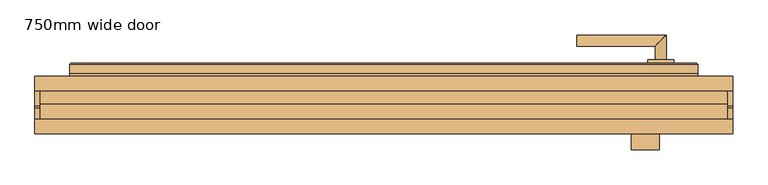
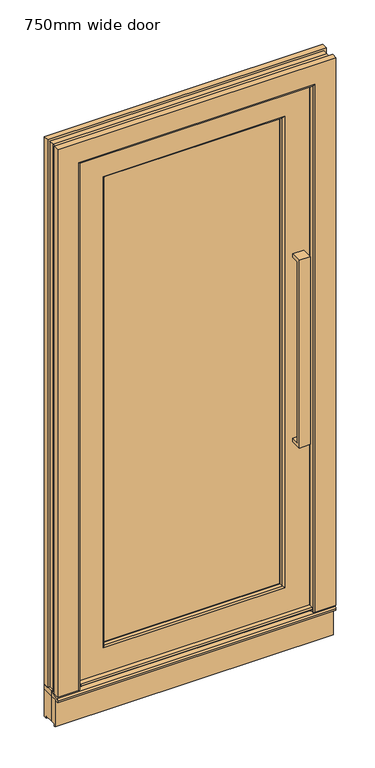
"""IFC4 building model written with IfcOpenShell, lengths in millimetres: door geometry, Doors_GEALAN_S9000_Front-Door : 750mm wide door."""

from ifc_helpers import new_model, si_unit, point, frame, frame_2d, origin, origin_with_axes, place, context, project, spatial, polyline, circle_curve, ellipse_curve, trimmed, segment, composite_curve, outline, extrude, faceted_brep, source, transform, mapped, element, save
from ifc_brep_helpers import plane_surface, cylinder_surface, revolved_surface, advanced_brep


def door_750mm_wide_door_e2ca8ed5(model_context):
    return source(origin(), model_context, "Body", "SolidModel", [
        extrude(outline(polyline([(-31.5, 680.9999998), (-72.9888979, 680.9999998), (-72.9888979, 1393.9777955), (-31.5, 1393.9777955), (-31.5, 1380.9999998), (-60.0111021, 1380.9999998), (-60.0111021, 693.9777955), (-31.5, 693.9777955), (-31.5, 680.9999998)])), frame((355.0988556, 0.0, 0.0), z_axis=(1.0, 0.0, 0.0), x_axis=(0.0, 1.0, 0.0)), (0.0, 0.0, 1.0), 39.8022889),
        advanced_brep(
        [(388.9719061, 56.0, 1030.9999998), (405.0280939, 56.0, 1030.9999998), (405.0280939, 91.5280939, 1030.9999998), (388.9719061, 75.4719061, 1030.9999998), (277.0, 75.4719061, 1030.9999998), (277.0, 91.5280939, 1030.9999998)],
        [
            (0, 1, circle_curve(frame((397.0, 56.0, 1030.9999998), z_axis=(0.0, -1.0, 0.0), x_axis=(1.0, 0.0, 0.0)), 8.0280939)),
            (1, 0, circle_curve(frame((397.0, 56.0, 1030.9999998), z_axis=(0.0, -1.0, 0.0), x_axis=(1.0, 0.0, 0.0)), 8.0280939)),
            (1, 2),
            (2, 3, ellipse_curve(frame((397.0, 83.5, 1030.9999998), z_axis=(0.7071067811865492, -0.7071067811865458, 0.0), x_axis=(-0.7071067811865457, -0.7071067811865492, 0.0)), 11.3534392, 8.0280939)),
            (3, 0),
            (3, 2, ellipse_curve(frame((397.0, 83.5, 1030.9999998), z_axis=(0.7071067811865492, -0.7071067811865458, 0.0), x_axis=(-0.7071067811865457, -0.7071067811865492, 0.0)), 11.3534392, 8.0280939)),
            (4, 5, circle_curve(frame((277.0, 83.5, 1030.9999998), z_axis=(-1.0, 0.0, 0.0), x_axis=(0.0, 1.0, 0.0)), 8.0280939)),
            (5, 4, circle_curve(frame((277.0, 83.5, 1030.9999998), z_axis=(-1.0, 0.0, 0.0), x_axis=(0.0, 1.0, 0.0)), 8.0280939)),
            (2, 5),
            (4, 3),
        ],
        [
            plane_surface(frame((397.0, 56.0, 1030.9999998), z_axis=(0.0, -1.0, 0.0), x_axis=(0.0, 0.0, 1.0))),
            cylinder_surface(frame((397.0, 56.0, 1030.9999998), z_axis=(0.0, -1.0, 0.0), x_axis=(1.0, 0.0, 0.0)), 8.0280939),
            plane_surface(frame((277.0, 83.5, 1030.9999998), z_axis=(-1.0, 0.0, 0.0), x_axis=(0.0, 0.0, 1.0))),
            cylinder_surface(frame((397.0, 83.5, 1030.9999998), z_axis=(1.0, 0.0, 0.0), x_axis=(0.0, 1.0, 0.0)), 8.0280939),
        ],
        [
            (0, [[1, 2]]),
            (1, [[3, 4, 5, -2]]),
            (1, [[-5, 6, -3, -1]]),
            (2, [[7, 8]]),
            (3, [[9, -7, 10, -4]]),
            (3, [[-10, -8, -9, -6]]),
        ],
    ),
        advanced_brep(
        [(397.0, 51.0, 1060.4999998), (378.5, 51.0, 1055.4999998), (378.5, 51.0, 947.4999998), (397.0, 51.0, 942.4999998), (415.5, 51.0, 947.4999998), (415.5, 51.0, 1055.4999998), (398.9792033, 51.0, 972.009504), (398.9792033, 51.0, 965.740473), (395.0207967, 51.0, 965.740473), (395.0207967, 51.0, 972.009504), (378.5, 56.0, 1055.4999998), (378.5, 56.0, 947.4999998), (397.0, 56.0, 1060.4999998), (415.5, 56.0, 1055.4999998), (415.5, 56.0, 947.4999998), (397.0, 56.0, 942.4999998), (395.0207967, 56.0, 972.009504), (395.0207967, 56.0, 965.740473), (398.9792033, 56.0, 965.740473), (398.9792033, 56.0, 972.009504)],
        [
            (0, 1, circle_curve(frame((397.0, 51.0, 1023.7749998), z_axis=(0.0, -1.0, 0.0), x_axis=(1.0, 0.0, 0.0)), 36.725)),
            (1, 2),
            (2, 3, circle_curve(frame((397.0, 51.0, 979.2249998), z_axis=(0.0, -1.0, 0.0), x_axis=(1.0, 0.0, 0.0)), 36.725)),
            (3, 4, circle_curve(frame((397.0, 51.0, 979.2249998), z_axis=(0.0, -1.0, 0.0), x_axis=(1.0, 0.0, 0.0)), 36.725)),
            (4, 5),
            (5, 0, circle_curve(frame((397.0, 51.0, 1023.7749998), z_axis=(0.0, -1.0, 0.0), x_axis=(1.0, 0.0, 0.0)), 36.725)),
            (6, 7),
            (7, 8, circle_curve(frame((397.0, 51.0, 965.740473), z_axis=(0.0, 1.0, 0.0), x_axis=(1.0, 0.0, 0.0)), 1.9792033)),
            (8, 9),
            (9, 6, circle_curve(frame((397.0, 51.0, 975.5006417), z_axis=(0.0, 1.0, 0.0), x_axis=(1.0, 0.0, 0.0)), 4.0131394)),
            (10, 11),
            (11, 2),
            (1, 10),
            (12, 13, circle_curve(frame((397.0, 56.0, 1023.7749998), z_axis=(0.0, 1.0, 0.0), x_axis=(1.0, 0.0, 0.0)), 36.725)),
            (13, 14),
            (14, 15, circle_curve(frame((397.0, 56.0, 979.2249998), z_axis=(0.0, 1.0, 0.0), x_axis=(1.0, 0.0, 0.0)), 36.725)),
            (15, 11, circle_curve(frame((397.0, 56.0, 979.2249998), z_axis=(0.0, 1.0, 0.0), x_axis=(1.0, 0.0, 0.0)), 36.725)),
            (10, 12, circle_curve(frame((397.0, 56.0, 1023.7749998), z_axis=(0.0, 1.0, 0.0), x_axis=(1.0, 0.0, 0.0)), 36.725)),
            (16, 17),
            (17, 18, circle_curve(frame((397.0, 56.0, 965.740473), z_axis=(0.0, -1.0, 0.0), x_axis=(1.0, 0.0, 0.0)), 1.9792033)),
            (18, 19),
            (19, 16, circle_curve(frame((397.0, 56.0, 975.5006417), z_axis=(0.0, -1.0, 0.0), x_axis=(1.0, 0.0, 0.0)), 4.0131394)),
            (4, 14),
            (13, 5),
            (9, 16),
            (19, 6),
            (8, 17),
            (7, 18),
        ],
        [
            plane_surface(frame((415.5, 51.0, 1060.4999998), z_axis=(0.0, -1.0, 0.0), x_axis=(0.0, 0.0, -1.0))),
            plane_surface(frame((378.5, 51.0, 1060.4999998), z_axis=(-1.0, 0.0, 0.0), x_axis=(0.0, 0.0, -1.0))),
            plane_surface(frame((378.5, 56.0, 1060.4999998), z_axis=(0.0, 1.0, 0.0), x_axis=(0.0, 0.0, -1.0))),
            plane_surface(frame((415.5, 56.0, 1060.4999998), z_axis=(1.0, 0.0, 0.0), x_axis=(0.0, 0.0, -1.0))),
            revolved_surface(polyline([(401.0131394, 56.0, 975.5006417), (401.0131394, 51.0, 975.5006417)]), (397.0, 46.0, 975.5006417), (0.0, 1.0, 0.0)),
            plane_surface(frame((395.0207967, 296.0, 972.009504), z_axis=(1.0, 0.0, 0.0), x_axis=(0.0, -1.0, 0.0))),
            revolved_surface(polyline([(398.9792033, 56.0, 965.740473), (398.9792033, 51.0, 965.740473)]), (397.0, 46.0, 965.740473), (0.0, 1.0, 0.0)),
            plane_surface(frame((398.9792033, 296.0, 965.740473), z_axis=(-1.0, 0.0, 0.0), x_axis=(0.0, -1.0, 0.0))),
            cylinder_surface(frame((397.0, 46.0, 1023.7749998), z_axis=(0.0, -1.0, 0.0), x_axis=(1.0, 0.0, 0.0)), 36.725),
            cylinder_surface(frame((397.0, 46.0, 979.2249998), z_axis=(0.0, -1.0, 0.0), x_axis=(1.0, 0.0, 0.0)), 36.725),
        ],
        [
            (0, [[1, 2, 3, 4, 5, 6], [7, 8, 9, 10]]),
            (1, [[11, 12, -2, 13]]),
            (2, [[14, 15, 16, 17, -11, 18], [19, 20, 21, 22]]),
            (3, [[-5, 23, -15, 24]]),
            (4, [[-10, 25, -22, 26]]),
            (5, [[-9, 27, -19, -25]]),
            (6, [[-8, 28, -20, -27]]),
            (7, [[-21, -28, -7, -26]]),
            (8, [[-24, -14, -18, -13, -1, -6]]),
            (9, [[-12, -17, -16, -23, -4, -3]]),
        ],
    ),
        extrude(outline(polyline([(-339.0, -13.5), (-339.0, 26.5), (339.0, 26.5), (339.0, -13.5), (-339.0, -13.5)])), frame((0.0, 0.0, 122.9999998), z_axis=(0.0, 0.0, 1.0), x_axis=(1.0, 0.0, 0.0)), (0.0, 0.0, 1.0), 1816.0),
        extrude(outline(polyline([(1932.7123033, -332.7123035), (129.2876963, -332.7123035), (129.2876963, 332.7123035), (1932.7123033, 332.7123035), (1932.7123033, -332.7123035)]), holes=[polyline([(144.2876963, -317.7123035), (1917.7123033, -317.7123035), (1917.7123033, 317.7123035), (144.2876963, 317.7123035), (144.2876963, -317.7123035)])]), frame((0.0, -16.5, 0.0), z_axis=(0.0, 1.0, 0.0), x_axis=(0.0, 0.0, 1.0)), (0.0, 0.0, 1.0), 3.0),
        extrude(outline(polyline([(1929.501217, -329.5012172), (132.4987826, -329.5012172), (132.4987826, 329.5012172), (1929.501217, 329.5012172), (1929.501217, -329.5012172)]), holes=[polyline([(143.9987826, -318.0012172), (1918.001217, -318.0012172), (1918.001217, 318.0012172), (143.9987826, 318.0012172), (143.9987826, -318.0012172)])]), frame((0.0, 26.5, 0.0), z_axis=(0.0, 1.0, 0.0), x_axis=(0.0, 0.0, 1.0)), (0.0, 0.0, 1.0), 2.5),
        extrude(outline(polyline([(2049.9999998, -450.0), (11.9999998, -450.0), (11.9999998, 450.0), (2049.9999998, 450.0), (2049.9999998, -450.0)]), holes=[polyline([(20.7999998, -441.2), (2041.1999998, -441.2), (2041.1999998, 441.2), (20.7999998, 441.2), (20.7999998, -441.2)])]), frame((0.0, 32.5, 0.0), z_axis=(0.0, 1.0, 0.0), x_axis=(0.0, 0.0, 1.0)), (0.0, 0.0, 1.0), 3.5),
        advanced_brep(
        [(-325.9578203, -31.4881012, 1925.95782), (-325.9578203, -31.4881012, 136.0421795), (-320.5399484, -27.0529143, 141.4600514), (-320.5399484, -27.0529143, 1920.5399482), (-421.9644818, -10.0317805, 2021.9644816), (-421.9644818, -10.0317805, 40.0355179), (-421.9644818, -31.4881012, 40.0355179), (-421.9644818, -31.4881012, 2021.9644816), (-430.0, 10.0, 2029.9999998), (-430.0, 10.0, 31.9999998), (-430.0, -10.0317805, 31.9999998), (-430.0, -10.0317805, 2029.9999998), (-348.1, -16.5, 1948.0999998), (-348.1, -16.5, 113.8999998), (-348.1, 10.0, 113.8999998), (-348.1, 10.0, 1948.0999998), (-317.7123035, -16.5, 144.2876963), (-317.7123035, -16.5, 1917.7123033), (325.9578203, -31.4881012, 136.0421795), (320.5399484, -27.0529143, 141.4600514), (421.9644818, -10.0317805, 40.0355179), (421.9644818, -31.4881012, 40.0355179), (430.0, 10.0, 31.9999998), (430.0, -10.0317805, 31.9999998), (348.1, -16.5, 113.8999998), (348.1, 10.0, 113.8999998), (317.7123035, -16.5, 144.2876963), (325.9578203, -31.4881012, 1925.95782), (320.5399484, -27.0529143, 1920.5399482), (421.9644818, -10.0317805, 2021.9644816), (421.9644818, -31.4881012, 2021.9644816), (430.0, 10.0, 2029.9999998), (430.0, -10.0317805, 2029.9999998), (348.1, -16.5, 1948.0999998), (348.1, 10.0, 1948.0999998), (317.7123035, -16.5, 1917.7123033)],
        [
            (0, 1),
            (1, 2, ellipse_curve(frame((-326.3355033, -25.5, 135.6644965), z_axis=(-0.7071067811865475, 0.0, 0.7071067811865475), x_axis=(0.7071067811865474, 0.0, 0.7071067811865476)), 8.4852814, 6.0)),
            (2, 3),
            (3, 0, ellipse_curve(frame((-326.3355033, -25.5, 1926.3355031), z_axis=(-0.7071067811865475, 0.0, -0.7071067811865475), x_axis=(-0.7071067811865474, 0.0, 0.7071067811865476)), 8.4852814, 6.0)),
            (4, 5),
            (5, 6),
            (6, 7),
            (7, 4),
            (8, 9),
            (9, 10),
            (10, 11),
            (11, 8),
            (12, 13),
            (13, 14),
            (14, 15),
            (15, 12),
            (2, 16),
            (16, 17),
            (17, 3),
            (1, 18),
            (18, 19, ellipse_curve(frame((326.3355033, -25.5, 135.6644965), z_axis=(-0.7071067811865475, 0.0, -0.7071067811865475), x_axis=(-0.7071067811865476, 0.0, 0.7071067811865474)), 8.4852814, 6.0)),
            (19, 2),
            (5, 20),
            (20, 21),
            (21, 6),
            (9, 22),
            (22, 23),
            (23, 10),
            (13, 24),
            (24, 25),
            (25, 14),
            (19, 26),
            (26, 16),
            (18, 27),
            (27, 28, ellipse_curve(frame((326.3355033, -25.5, 1926.3355031), z_axis=(0.7071067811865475, 0.0, -0.7071067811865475), x_axis=(-0.7071067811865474, 0.0, -0.7071067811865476)), 8.4852814, 6.0)),
            (28, 19),
            (20, 29),
            (29, 30),
            (30, 21),
            (22, 31),
            (31, 32),
            (32, 23),
            (24, 33),
            (33, 34),
            (34, 25),
            (28, 35),
            (35, 26),
            (27, 0),
            (3, 28),
            (30, 7),
            (29, 4),
            (32, 11),
            (31, 8),
            (34, 15),
            (33, 12),
            (35, 17),
        ],
        [
            cylinder_surface(frame((-326.3355033, -25.5, 2049.9999998), z_axis=(0.0, 0.0, 1.0), x_axis=(0.0, 1.0, 0.0)), 6.0),
            plane_surface(frame((-421.9644818, -31.4881012, 2021.9644816), z_axis=(-1.0, 0.0, 0.0), x_axis=(0.0, 0.0, -1.0))),
            plane_surface(frame((-430.0, -10.0317805, 2029.9999998), z_axis=(-1.0, 0.0, 0.0), x_axis=(0.0, 0.0, -1.0))),
            plane_surface(frame((-348.1, 10.0, 1948.0999998), z_axis=(1.0, 0.0, 0.0), x_axis=(0.0, 0.0, -1.0))),
            plane_surface(frame((-317.7123035, -16.5, 1917.7123033), z_axis=(0.9659258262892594, -0.25881904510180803, 0.0), x_axis=(0.0, 0.0, -1.0))),
            cylinder_surface(frame((-450.0, -25.5, 135.6644965), z_axis=(-1.0, 0.0, 0.0), x_axis=(0.0, 1.0, 0.0)), 6.0),
            plane_surface(frame((-421.9644818, -31.4881012, 40.0355179), z_axis=(0.0, 0.0, -1.0), x_axis=(1.0, 0.0, 0.0))),
            plane_surface(frame((-430.0, -10.0317805, 31.9999998), z_axis=(0.0, 0.0, -1.0), x_axis=(1.0, 0.0, 0.0))),
            plane_surface(frame((-348.1, 10.0, 113.8999998), z_axis=(0.0, 0.0, 1.0), x_axis=(1.0, 0.0, 0.0))),
            plane_surface(frame((-317.7123035, -16.5, 144.2876963), z_axis=(0.0, -0.25881904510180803, 0.9659258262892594), x_axis=(1.0, 0.0, 0.0))),
            cylinder_surface(frame((326.3355033, -25.5, 11.9999998), z_axis=(0.0, 0.0, -1.0), x_axis=(0.0, 1.0, 0.0)), 6.0),
            plane_surface(frame((421.9644818, -31.4881012, 40.0355179), z_axis=(1.0, 0.0, 0.0), x_axis=(0.0, 0.0, 1.0))),
            plane_surface(frame((430.0, -10.0317805, 31.9999998), z_axis=(1.0, 0.0, 0.0), x_axis=(0.0, 0.0, 1.0))),
            plane_surface(frame((348.1, 10.0, 113.8999998), z_axis=(-1.0, 0.0, 0.0), x_axis=(0.0, 0.0, 1.0))),
            plane_surface(frame((317.7123035, -16.5, 144.2876963), z_axis=(-0.9659258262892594, -0.25881904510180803, 0.0), x_axis=(0.0, 0.0, 1.0))),
            cylinder_surface(frame((450.0, -25.5, 1926.3355031), z_axis=(1.0, 0.0, 0.0), x_axis=(0.0, 1.0, 0.0)), 6.0),
            plane_surface(frame((325.9578203, -31.4881012, 1925.95782), z_axis=(0.0, -1.0, 0.0), x_axis=(-1.0, 0.0, 0.0))),
            plane_surface(frame((421.9644818, -31.4881012, 2021.9644816), z_axis=(0.0, 0.0, 1.0), x_axis=(-1.0, 0.0, 0.0))),
            plane_surface(frame((421.9644818, -10.0317805, 2021.9644816), z_axis=(0.0, -1.0, 0.0), x_axis=(-1.0, 0.0, 0.0))),
            plane_surface(frame((430.0, -10.0317805, 2029.9999998), z_axis=(0.0, 0.0, 1.0), x_axis=(-1.0, 0.0, 0.0))),
            plane_surface(frame((430.0, 10.0, 2029.9999998), z_axis=(0.0, 1.0, 0.0), x_axis=(-1.0, 0.0, 0.0))),
            plane_surface(frame((348.1, 10.0, 1948.0999998), z_axis=(0.0, 0.0, -1.0), x_axis=(-1.0, 0.0, 0.0))),
            plane_surface(frame((348.1, -16.5, 1948.0999998), z_axis=(0.0, 1.0, 0.0), x_axis=(-1.0, 0.0, 0.0))),
            plane_surface(frame((317.7123035, -16.5, 1917.7123033), z_axis=(0.0, -0.25881904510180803, -0.9659258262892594), x_axis=(-1.0, 0.0, 0.0))),
        ],
        [
            (0, [[1, 2, 3, 4]]),
            (1, [[5, 6, 7, 8]]),
            (2, [[9, 10, 11, 12]]),
            (3, [[13, 14, 15, 16]]),
            (4, [[-3, 17, 18, 19]]),
            (5, [[20, 21, 22, -2]]),
            (6, [[23, 24, 25, -6]]),
            (7, [[26, 27, 28, -10]]),
            (8, [[29, 30, 31, -14]]),
            (9, [[-22, 32, 33, -17]]),
            (10, [[34, 35, 36, -21]]),
            (11, [[37, 38, 39, -24]]),
            (12, [[40, 41, 42, -27]]),
            (13, [[43, 44, 45, -30]]),
            (14, [[-36, 46, 47, -32]]),
            (15, [[48, -4, 49, -35]]),
            (16, [[-7, -25, -39, 50], [-1, -48, -34, -20]]),
            (17, [[51, -8, -50, -38]]),
            (18, [[-11, -28, -42, 52], [-5, -51, -37, -23]]),
            (19, [[53, -12, -52, -41]]),
            (20, [[-9, -53, -40, -26], [-15, -31, -45, 54]]),
            (21, [[55, -16, -54, -44]]),
            (22, [[-13, -55, -43, -29], [-18, -33, -47, 56]]),
            (23, [[-49, -19, -56, -46]]),
        ],
    ),
        advanced_brep(
        [(-450.0, 48.5, 2049.9999998), (-450.0, 48.5, 11.9999998), (-450.0, 36.0, 11.9999998), (-450.0, 36.0, 2049.9999998), (-447.5, 51.0, 2047.4999998), (-447.5, 51.0, 14.4999998), (-344.0, 51.0, 1943.9999998), (-344.0, 39.0718587, 1943.9999998), (-344.0, 39.0718587, 117.9999998), (-344.0, 51.0, 117.9999998), (-348.1, 10.0, 1948.0999998), (-348.1, 10.0, 113.8999998), (-348.1, 39.0718587, 113.8999998), (-348.1, 39.0718587, 1948.0999998), (-430.0, 36.0, 2029.9999998), (-430.0, 36.0, 31.9999998), (-430.0, 10.0, 31.9999998), (-430.0, 10.0, 2029.9999998), (450.0, 48.5, 11.9999998), (450.0, 36.0, 11.9999998), (447.5, 51.0, 14.4999998), (344.0, 39.0718587, 117.9999998), (344.0, 51.0, 117.9999998), (348.1, 10.0, 113.8999998), (348.1, 39.0718587, 113.8999998), (430.0, 36.0, 31.9999998), (430.0, 10.0, 31.9999998), (450.0, 48.5, 2049.9999998), (450.0, 36.0, 2049.9999998), (447.5, 51.0, 2047.4999998), (344.0, 39.0718587, 1943.9999998), (344.0, 51.0, 1943.9999998), (348.1, 10.0, 1948.0999998), (348.1, 39.0718587, 1948.0999998), (430.0, 36.0, 2029.9999998), (430.0, 10.0, 2029.9999998)],
        [
            (0, 1),
            (1, 2),
            (2, 3),
            (3, 0),
            (4, 5),
            (5, 1, ellipse_curve(frame((-447.5, 48.5, 14.4999998), z_axis=(-0.7071067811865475, 0.0, 0.7071067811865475), x_axis=(0.7071067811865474, 0.0, 0.7071067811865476)), 3.5355339, 2.5)),
            (0, 4, ellipse_curve(frame((-447.5, 48.5, 2047.4999998), z_axis=(-0.7071067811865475, 0.0, -0.7071067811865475), x_axis=(-0.7071067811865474, 0.0, 0.7071067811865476)), 3.5355339, 2.5)),
            (6, 7),
            (7, 8),
            (8, 9),
            (9, 6),
            (10, 11),
            (11, 12),
            (12, 13),
            (13, 10),
            (14, 15),
            (15, 16),
            (16, 17),
            (17, 14),
            (1, 18),
            (18, 19),
            (19, 2),
            (5, 20),
            (20, 18, ellipse_curve(frame((447.5, 48.5, 14.4999998), z_axis=(-0.7071067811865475, 0.0, -0.7071067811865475), x_axis=(-0.7071067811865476, 0.0, 0.7071067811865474)), 3.5355339, 2.5)),
            (8, 21),
            (21, 22),
            (22, 9),
            (11, 23),
            (23, 24),
            (24, 12),
            (15, 25),
            (25, 26),
            (26, 16),
            (18, 27),
            (27, 28),
            (28, 19),
            (20, 29),
            (29, 27, ellipse_curve(frame((447.5, 48.5, 2047.4999998), z_axis=(0.7071067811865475, 0.0, -0.7071067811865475), x_axis=(-0.7071067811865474, 0.0, -0.7071067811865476)), 3.5355339, 2.5)),
            (21, 30),
            (30, 31),
            (31, 22),
            (23, 32),
            (32, 33),
            (33, 24),
            (25, 34),
            (34, 35),
            (35, 26),
            (27, 0),
            (3, 28),
            (29, 4),
            (31, 6),
            (30, 7),
            (33, 13),
            (32, 10),
            (35, 17),
            (34, 14),
        ],
        [
            plane_surface(frame((-450.0, 36.0, 2049.9999998), z_axis=(-1.0, 0.0, 0.0), x_axis=(0.0, 0.0, -1.0))),
            cylinder_surface(frame((-447.5, 48.5, 2049.9999998), z_axis=(0.0, 0.0, 1.0), x_axis=(0.0, 1.0, 0.0)), 2.5),
            plane_surface(frame((-344.0, 43.7, 1943.9999998), z_axis=(1.0, 0.0, 0.0), x_axis=(0.0, 0.0, -1.0))),
            plane_surface(frame((-348.1, 39.0718587, 1948.0999998), z_axis=(1.0, 0.0, 0.0), x_axis=(0.0, 0.0, -1.0))),
            plane_surface(frame((-430.0, 10.0, 2029.9999998), z_axis=(-1.0, 0.0, 0.0), x_axis=(0.0, 0.0, -1.0))),
            plane_surface(frame((-450.0, 36.0, 11.9999998), z_axis=(0.0, 0.0, -1.0), x_axis=(1.0, 0.0, 0.0))),
            cylinder_surface(frame((-450.0, 48.5, 14.4999998), z_axis=(-1.0, 0.0, 0.0), x_axis=(0.0, 1.0, 0.0)), 2.5),
            plane_surface(frame((-344.0, 43.7, 117.9999998), z_axis=(0.0, 0.0, 1.0), x_axis=(1.0, 0.0, 0.0))),
            plane_surface(frame((-348.1, 39.0718587, 113.8999998), z_axis=(0.0, 0.0, 1.0), x_axis=(1.0, 0.0, 0.0))),
            plane_surface(frame((-430.0, 10.0, 31.9999998), z_axis=(0.0, 0.0, -1.0), x_axis=(1.0, 0.0, 0.0))),
            plane_surface(frame((450.0, 36.0, 11.9999998), z_axis=(1.0, 0.0, 0.0), x_axis=(0.0, 0.0, 1.0))),
            cylinder_surface(frame((447.5, 48.5, 11.9999998), z_axis=(0.0, 0.0, -1.0), x_axis=(0.0, 1.0, 0.0)), 2.5),
            plane_surface(frame((344.0, 43.7, 117.9999998), z_axis=(-1.0, 0.0, 0.0), x_axis=(0.0, 0.0, 1.0))),
            plane_surface(frame((348.1, 39.0718587, 113.8999998), z_axis=(-1.0, 0.0, 0.0), x_axis=(0.0, 0.0, 1.0))),
            plane_surface(frame((430.0, 10.0, 31.9999998), z_axis=(1.0, 0.0, 0.0), x_axis=(0.0, 0.0, 1.0))),
            plane_surface(frame((450.0, 36.0, 2049.9999998), z_axis=(0.0, 0.0, 1.0), x_axis=(-1.0, 0.0, 0.0))),
            cylinder_surface(frame((450.0, 48.5, 2047.4999998), z_axis=(1.0, 0.0, 0.0), x_axis=(0.0, 1.0, 0.0)), 2.5),
            plane_surface(frame((447.5, 51.0, 2047.4999998), z_axis=(0.0, 1.0, 0.0), x_axis=(-1.0, 0.0, 0.0))),
            plane_surface(frame((344.0, 43.7, 1943.9999998), z_axis=(0.0, 0.0, -1.0), x_axis=(-1.0, 0.0, 0.0))),
            plane_surface(frame((344.0, 39.0718587, 1943.9999998), z_axis=(0.0, -1.0, 0.0), x_axis=(-1.0, 0.0, 0.0))),
            plane_surface(frame((348.1, 39.0718587, 1948.0999998), z_axis=(0.0, 0.0, -1.0), x_axis=(-1.0, 0.0, 0.0))),
            plane_surface(frame((348.1, 10.0, 1948.0999998), z_axis=(0.0, -1.0, 0.0), x_axis=(-1.0, 0.0, 0.0))),
            plane_surface(frame((430.0, 10.0, 2029.9999998), z_axis=(0.0, 0.0, 1.0), x_axis=(-1.0, 0.0, 0.0))),
            plane_surface(frame((430.0, 36.0, 2029.9999998), z_axis=(0.0, -1.0, 0.0), x_axis=(-1.0, 0.0, 0.0))),
        ],
        [
            (0, [[1, 2, 3, 4]]),
            (1, [[5, 6, -1, 7]]),
            (2, [[8, 9, 10, 11]]),
            (3, [[12, 13, 14, 15]]),
            (4, [[16, 17, 18, 19]]),
            (5, [[20, 21, 22, -2]]),
            (6, [[23, 24, -20, -6]]),
            (7, [[25, 26, 27, -10]]),
            (8, [[28, 29, 30, -13]]),
            (9, [[31, 32, 33, -17]]),
            (10, [[34, 35, 36, -21]]),
            (11, [[37, 38, -34, -24]]),
            (12, [[39, 40, 41, -26]]),
            (13, [[42, 43, 44, -29]]),
            (14, [[45, 46, 47, -32]]),
            (15, [[48, -4, 49, -35]]),
            (16, [[50, -7, -48, -38]]),
            (17, [[-5, -50, -37, -23], [-11, -27, -41, 51]]),
            (18, [[52, -8, -51, -40]]),
            (19, [[-14, -30, -44, 53], [-9, -52, -39, -25]]),
            (20, [[54, -15, -53, -43]]),
            (21, [[-18, -33, -47, 55], [-12, -54, -42, -28]]),
            (22, [[56, -19, -55, -46]]),
            (23, [[-3, -22, -36, -49], [-16, -56, -45, -31]]),
        ],
    ),
        extrude(outline(composite_curve([segment(polyline([(-45.2682409, 37.6251855), (-31.7562557, 39.9999998), (-21.2, 39.9999998), (-21.2, 34.6999998), (-10.0618131, 34.6999998), (-10.0618131, 31.9986184), (2.1381869, 31.9986184), (2.1381869, 19.9986184), (-13.7227037, 19.9986184), (-13.7227037, 33.0999998), (-26.9, 33.0999998), (-26.9, 31.7999998)]), True, "CONTINUOUS"), segment(trimmed(circle_curve(frame_2d((-27.5, 31.7999998)), 0.6), [point((-26.9, 31.7999998))], [point((-28.1, 31.7999998))], False, "CARTESIAN"), True, "CONTINUOUS"), segment(polyline([(-28.1, 31.7999998), (-28.1, 38.3999998), (-31.6600181, 38.3999998), (-44.9904038, 36.0494931)]), True, "CONTINUOUS"), segment(trimmed(circle_curve(frame_2d((-44.4, 32.7011468)), 3.4), [point((-44.9904038, 36.0494931))], [point((-47.8, 32.7011468))], True, "CARTESIAN"), True, "CONTINUOUS"), segment(polyline([(-47.8, 32.7011468), (-47.8, 31.2999998), (-49.4, 31.2999998), (-49.4, 32.7011468)]), True, "CONTINUOUS"), segment(trimmed(circle_curve(frame_2d((-44.4032971, 32.7039134)), 4.9967036), [point((-49.4, 32.7011468))], [point((-45.2682409, 37.6251855))], False, "CARTESIAN"), True, "CONTINUOUS")], self_intersect=False)), frame((-416.0, 0.0, 0.0), z_axis=(1.0, 0.0, 0.0), x_axis=(0.0, 1.0, 0.0)), (0.0, 0.0, 1.0), 832.0),
        advanced_brep(
        [(-321.8959832, 45.0529143, 1921.895983), (-321.8959832, 45.0529143, 140.1040166), (-327.6915381, 49.5, 134.3084616), (-327.6915381, 49.5, 1927.6915379), (-318.0012172, 30.5174497, 1918.001217), (-318.0012172, 30.5174497, 143.9987826), (-318.0012172, 29.0, 1918.001217), (-318.0012172, 29.0, 143.9987826), (-331.1432253, 34.0, 1931.143225), (-331.1432253, 34.0, 130.8567745), (-329.8034793, 29.0, 132.1965205), (-329.8034793, 29.0, 1929.8034791), (-344.0, 34.0, 1943.9999998), (-344.0, 49.5, 1943.9999998), (-344.0, 49.5, 117.9999998), (-344.0, 34.0, 117.9999998), (321.8959832, 45.0529143, 140.1040166), (327.6915381, 49.5, 134.3084616), (318.0012172, 30.5174497, 143.9987826), (318.0012172, 29.0, 143.9987826), (331.1432253, 34.0, 130.8567745), (329.8034793, 29.0, 132.1965205), (344.0, 49.5, 117.9999998), (344.0, 34.0, 117.9999998), (321.8959832, 45.0529143, 1921.895983), (327.6915381, 49.5, 1927.6915379), (318.0012172, 30.5174497, 1918.001217), (318.0012172, 29.0, 1918.001217), (331.1432253, 34.0, 1931.143225), (329.8034793, 29.0, 1929.8034791), (344.0, 49.5, 1943.9999998), (344.0, 34.0, 1943.9999998)],
        [
            (0, 1),
            (1, 2, ellipse_curve(frame((-327.6915381, 43.5, 134.3084616), z_axis=(-0.7071067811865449, 0.0, 0.70710678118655), x_axis=(0.7071067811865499, 0.0, 0.707106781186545)), 8.4852814, 6.0)),
            (2, 3),
            (3, 0, ellipse_curve(frame((-327.6915381, 43.5, 1927.6915379), z_axis=(-0.707106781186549, 0.0, -0.7071067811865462), x_axis=(-0.7071067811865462, 0.0, 0.7071067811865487)), 8.4852814, 6.0)),
            (4, 5),
            (5, 1),
            (0, 4),
            (6, 7),
            (7, 5),
            (4, 6),
            (8, 9),
            (9, 10),
            (10, 11),
            (11, 8),
            (12, 13),
            (13, 14),
            (14, 15),
            (15, 12),
            (1, 16),
            (16, 17, ellipse_curve(frame((327.6915381, 43.5, 134.3084616), z_axis=(-0.7071067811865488, 0.0, -0.7071067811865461), x_axis=(-0.7071067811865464, 0.0, 0.7071067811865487)), 8.4852814, 6.0)),
            (17, 2),
            (5, 18),
            (18, 16),
            (7, 19),
            (19, 18),
            (9, 20),
            (20, 21),
            (21, 10),
            (14, 22),
            (22, 23),
            (23, 15),
            (16, 24),
            (24, 25, ellipse_curve(frame((327.6915381, 43.5, 1927.6915379), z_axis=(0.7071067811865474, 0.0, -0.7071067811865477), x_axis=(-0.7071067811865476, 0.0, -0.7071067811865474)), 8.4852814, 6.0)),
            (25, 17),
            (18, 26),
            (26, 24),
            (19, 27),
            (27, 26),
            (20, 28),
            (28, 29),
            (29, 21),
            (22, 30),
            (30, 31),
            (31, 23),
            (24, 0),
            (3, 25),
            (26, 4),
            (27, 6),
            (29, 11),
            (28, 8),
            (31, 12),
            (30, 13),
        ],
        [
            cylinder_surface(frame((-327.6915381, 43.5, 2049.9999998), z_axis=(0.0, 0.0, 1.0), x_axis=(0.9659258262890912, 0.2588190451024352, 0.0)), 6.0),
            plane_surface(frame((-321.8959832, 45.0529143, 1921.895983), z_axis=(0.9659258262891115, 0.25881904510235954, 0.0), x_axis=(0.0, 0.0, -1.0))),
            plane_surface(frame((-318.0012172, 30.5174497, 1918.001217), z_axis=(1.0, 0.0, 0.0), x_axis=(0.0, 0.0, -1.0))),
            plane_surface(frame((-329.8034793, 29.0, 1929.8034791), z_axis=(-0.9659258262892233, -0.2588190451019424, 0.0), x_axis=(0.0, 0.0, -1.0))),
            plane_surface(frame((-344.0, 48.5, 1943.9999998), z_axis=(-1.0, 0.0, 0.0), x_axis=(0.0, 0.0, -1.0))),
            cylinder_surface(frame((-450.0, 43.5, 134.3084616), z_axis=(-1.0, 0.0, 0.0), x_axis=(0.0, 0.2588190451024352, 0.9659258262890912)), 6.0),
            plane_surface(frame((-321.8959832, 45.0529143, 140.1040166), z_axis=(0.0, 0.25881904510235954, 0.9659258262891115), x_axis=(1.0, 0.0, 0.0))),
            plane_surface(frame((-318.0012172, 30.5174497, 143.9987826), z_axis=(0.0, 0.0, 1.0), x_axis=(1.0, 0.0, 0.0))),
            plane_surface(frame((-329.8034793, 29.0, 132.1965205), z_axis=(0.0, -0.2588190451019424, -0.9659258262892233), x_axis=(1.0, 0.0, 0.0))),
            plane_surface(frame((-344.0, 48.5, 117.9999998), z_axis=(0.0, 0.0, -1.0), x_axis=(1.0, 0.0, 0.0))),
            cylinder_surface(frame((327.6915381, 43.5, 11.9999998), z_axis=(0.0, 0.0, -1.0), x_axis=(-0.9659258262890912, 0.2588190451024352, 0.0)), 6.0),
            plane_surface(frame((321.8959832, 45.0529143, 140.1040166), z_axis=(-0.9659258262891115, 0.25881904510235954, 0.0), x_axis=(0.0, 0.0, 1.0))),
            plane_surface(frame((318.0012172, 30.5174497, 143.9987826), z_axis=(-1.0, 0.0, 0.0), x_axis=(0.0, 0.0, 1.0))),
            plane_surface(frame((329.8034793, 29.0, 132.1965205), z_axis=(0.9659258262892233, -0.2588190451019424, 0.0), x_axis=(0.0, 0.0, 1.0))),
            plane_surface(frame((344.0, 48.5, 117.9999998), z_axis=(1.0, 0.0, 0.0), x_axis=(0.0, 0.0, 1.0))),
            cylinder_surface(frame((450.0, 43.5, 1927.6915379), z_axis=(1.0, 0.0, 0.0), x_axis=(0.0, 0.2588190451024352, -0.9659258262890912)), 6.0),
            plane_surface(frame((321.8959832, 45.0529143, 1921.895983), z_axis=(0.0, 0.25881904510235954, -0.9659258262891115), x_axis=(-1.0, 0.0, 0.0))),
            plane_surface(frame((318.0012172, 30.5174497, 1918.001217), z_axis=(0.0, 0.0, -1.0), x_axis=(-1.0, 0.0, 0.0))),
            plane_surface(frame((318.0012172, 29.0, 1918.001217), z_axis=(0.0, -1.0, 0.0), x_axis=(-1.0, 0.0, 0.0))),
            plane_surface(frame((329.8034793, 29.0, 1929.8034791), z_axis=(0.0, -0.2588190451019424, 0.9659258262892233), x_axis=(-1.0, 0.0, 0.0))),
            plane_surface(frame((331.1432253, 34.0, 1931.143225), z_axis=(0.0, -1.0, 0.0), x_axis=(-1.0, 0.0, 0.0))),
            plane_surface(frame((344.0, 48.5, 1943.9999998), z_axis=(0.0, 0.0, 1.0), x_axis=(-1.0, 0.0, 0.0))),
            plane_surface(frame((344.0, 49.5, 1943.9999998), z_axis=(0.0, 1.0, 0.0), x_axis=(-1.0, 0.0, 0.0))),
        ],
        [
            (0, [[1, 2, 3, 4]]),
            (1, [[5, 6, -1, 7]]),
            (2, [[8, 9, -5, 10]]),
            (3, [[11, 12, 13, 14]]),
            (4, [[15, 16, 17, 18]]),
            (5, [[19, 20, 21, -2]]),
            (6, [[22, 23, -19, -6]]),
            (7, [[24, 25, -22, -9]]),
            (8, [[26, 27, 28, -12]]),
            (9, [[29, 30, 31, -17]]),
            (10, [[32, 33, 34, -20]]),
            (11, [[35, 36, -32, -23]]),
            (12, [[37, 38, -35, -25]]),
            (13, [[39, 40, 41, -27]]),
            (14, [[42, 43, 44, -30]]),
            (15, [[45, -4, 46, -33]]),
            (16, [[47, -7, -45, -36]]),
            (17, [[48, -10, -47, -38]]),
            (18, [[-13, -28, -41, 49], [-8, -48, -37, -24]]),
            (19, [[50, -14, -49, -40]]),
            (20, [[-18, -31, -44, 51], [-11, -50, -39, -26]]),
            (21, [[52, -15, -51, -43]]),
            (22, [[-16, -52, -42, -29], [-3, -21, -34, -46]]),
        ],
    ),
        extrude(outline(polyline([(-9.5, 0.0), (32.5, 0.0), (32.5, -102.0), (20.0, -102.0), (20.0, -94.0), (-9.5, -94.0), (-9.5, 0.0)])), frame((-500.0, 0.0, 0.0), z_axis=(1.0, 0.0, 0.0), x_axis=(0.0, 1.0, 0.0)), (0.0, 0.0, 1.0), 1000.0),
        extrude(outline(polyline([(-33.5, 0.0), (-9.5, 0.0), (-9.5, -94.0), (-29.0, -94.0), (-29.0, -102.0), (-33.5, -102.0), (-33.5, 0.0)])), frame((-500.0, 0.0, 0.0), z_axis=(1.0, 0.0, 0.0), x_axis=(0.0, 1.0, 0.0)), (0.0, 0.0, 1.0), 1000.0),
        extrude(outline(polyline([(500.0, -9.5), (-500.0, -9.5), (-500.0, 32.5), (500.0, 32.5), (500.0, -9.5)])), origin_with_axes(), (0.0, 0.0, 1.0), 20.0),
        extrude(outline(composite_curve([segment(polyline([(-44.7312161, 11.8552769), (-12.2, 15.849608), (-12.2, 20.0), (-9.5, 20.0), (-9.5, 0.0), (-50.0, 0.0), (-50.0, 5.9)]), True, "CONTINUOUS"), segment(trimmed(circle_curve(frame_2d((-44.0, 5.9)), 6.0), [point((-50.0, 5.9))], [point((-44.7312161, 11.8552769))], False, "CARTESIAN"), True, "CONTINUOUS")], self_intersect=False)), frame((-500.0, 0.0, 0.0), z_axis=(1.0, 0.0, 0.0), x_axis=(0.0, 1.0, 0.0)), (0.0, 0.0, 1.0), 1000.0),
        advanced_brep(
        [(416.0, -36.02771, 2016.0), (416.0, -36.02771, 20.0), (418.5522708, -45.5529143, 20.0), (418.5522708, -45.5529143, 2018.5522708), (416.0, -35.0, 2016.0), (416.0, -35.0, 20.0), (446.1, -20.9886714, 2046.1), (446.1, -20.9886714, 20.0), (449.0781998, -35.0, 20.0), (449.0781998, -35.0, 2049.0781998), (446.1, -7.5, 2046.1), (446.1, -7.5, 20.0), (492.0, -29.0, 2092.0), (492.0, -29.0, 20.0), (492.0, -7.5, 20.0), (492.0, -7.5, 2092.0), (500.0, -50.0, 2100.0), (500.0, -50.0, 20.0), (500.0, -29.0, 20.0), (500.0, -29.0, 2100.0), (424.3478258, -50.0, 20.0), (424.3478258, -50.0, 2024.3478258), (-416.0, -36.02771, 20.0), (-416.0, -36.02771, 2016.0), (-418.5522708, -45.5529143, 2018.5522708), (-418.5522708, -45.5529143, 20.0), (-416.0, -35.0, 20.0), (-416.0, -35.0, 2016.0), (-446.1, -20.9886714, 20.0), (-446.1, -20.9886714, 2046.1), (-449.0781998, -35.0, 2049.0781998), (-449.0781998, -35.0, 20.0), (-446.1, -7.5, 20.0), (-446.1, -7.5, 2046.1), (-492.0, -29.0, 20.0), (-492.0, -29.0, 2092.0), (-492.0, -7.5, 2092.0), (-492.0, -7.5, 20.0), (-500.0, -50.0, 20.0), (-500.0, -50.0, 2100.0), (-500.0, -29.0, 2100.0), (-500.0, -29.0, 20.0), (-424.3478258, -50.0, 2024.3478258), (-424.3478258, -50.0, 20.0)],
        [
            (0, 1),
            (1, 2),
            (2, 3),
            (3, 0),
            (4, 5),
            (5, 1),
            (0, 4),
            (6, 7),
            (7, 8),
            (8, 9),
            (9, 6),
            (10, 11),
            (11, 7),
            (6, 10),
            (12, 13),
            (13, 14),
            (14, 15),
            (15, 12),
            (16, 17),
            (17, 18),
            (18, 19),
            (19, 16),
            (2, 20, circle_curve(frame((424.3478258, -44.0, 20.0), z_axis=(0.0, 0.0, 1.0), x_axis=(0.0, -1.0, 0.0)), 6.0)),
            (20, 21),
            (21, 3, ellipse_curve(frame((424.3478258, -44.0, 2024.3478258), z_axis=(0.7071067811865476, 0.0, -0.7071067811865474), x_axis=(0.7071067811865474, 0.0, 0.7071067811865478)), 8.4852814, 6.0)),
            (22, 23),
            (23, 24),
            (24, 25),
            (25, 22),
            (26, 27),
            (27, 23),
            (22, 26),
            (28, 29),
            (29, 30),
            (30, 31),
            (31, 28),
            (32, 33),
            (33, 29),
            (28, 32),
            (34, 35),
            (35, 36),
            (36, 37),
            (37, 34),
            (38, 39),
            (39, 40),
            (40, 41),
            (41, 38),
            (24, 42, ellipse_curve(frame((-424.3478258, -44.0, 2024.3478258), z_axis=(-0.707106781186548, 0.0, -0.707106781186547), x_axis=(0.707106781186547, 0.0, -0.707106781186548)), 8.4852814, 6.0)),
            (42, 43),
            (43, 25, circle_curve(frame((-424.3478258, -44.0, 20.0), z_axis=(0.0, 0.0, 1.0), x_axis=(0.0, -1.0, 0.0)), 6.0)),
            (23, 0),
            (3, 24),
            (27, 4),
            (29, 6),
            (9, 30),
            (33, 10),
            (35, 12),
            (15, 36),
            (39, 16),
            (19, 40),
            (21, 42),
            (43, 38),
            (41, 34),
            (37, 32),
            (31, 26),
            (5, 8),
            (11, 14),
            (13, 18),
            (17, 20),
        ],
        [
            plane_surface(frame((418.5522708, -45.5529143, 2018.5522708), z_axis=(-0.9659258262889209, -0.25881904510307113, 0.0), x_axis=(0.0, 0.0, -1.0))),
            plane_surface(frame((416.0, -36.02771, 2016.0), z_axis=(-1.0, 0.0, 0.0), x_axis=(0.0, 0.0, -1.0))),
            plane_surface(frame((449.0781998, -35.0, 2049.0781998), z_axis=(-0.9781476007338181, -0.20791169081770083, 0.0), x_axis=(0.0, 0.0, -1.0))),
            plane_surface(frame((446.1, -20.9886714, 2046.1), z_axis=(-1.0, 0.0, 0.0), x_axis=(0.0, 0.0, -1.0))),
            plane_surface(frame((492.0, -7.5, 2092.0), z_axis=(1.0, 0.0, 0.0), x_axis=(0.0, 0.0, -1.0))),
            plane_surface(frame((500.0, -29.0, 2100.0), z_axis=(1.0, 0.0, 0.0), x_axis=(0.0, 0.0, -1.0))),
            cylinder_surface(frame((424.3478258, -44.0, 2100.0), z_axis=(0.0, 0.0, 1.0), x_axis=(0.0, -1.0, 0.0)), 6.0),
            plane_surface(frame((-418.5522708, -45.5529143, 20.0), z_axis=(0.9659258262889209, -0.25881904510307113, 0.0), x_axis=(0.0, 0.0, 1.0))),
            plane_surface(frame((-416.0, -36.02771, 20.0), z_axis=(1.0, 0.0, 0.0), x_axis=(0.0, 0.0, 1.0))),
            plane_surface(frame((-449.0781998, -35.0, 20.0), z_axis=(0.9781476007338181, -0.20791169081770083, 0.0), x_axis=(0.0, 0.0, 1.0))),
            plane_surface(frame((-446.1, -20.9886714, 20.0), z_axis=(1.0, 0.0, 0.0), x_axis=(0.0, 0.0, 1.0))),
            plane_surface(frame((-492.0, -7.5, 20.0), z_axis=(-1.0, 0.0, 0.0), x_axis=(0.0, 0.0, 1.0))),
            plane_surface(frame((-500.0, -29.0, 20.0), z_axis=(-1.0, 0.0, 0.0), x_axis=(0.0, 0.0, 1.0))),
            cylinder_surface(frame((-424.3478258, -44.0, 20.0), z_axis=(0.0, 0.0, -1.0), x_axis=(0.0, -1.0, 0.0)), 6.0),
            plane_surface(frame((-418.5522708, -45.5529143, 2018.5522708), z_axis=(0.0, -0.25881904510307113, -0.9659258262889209), x_axis=(1.0, 0.0, 0.0))),
            plane_surface(frame((-416.0, -36.02771, 2016.0), z_axis=(0.0, 0.0, -1.0), x_axis=(1.0, 0.0, 0.0))),
            plane_surface(frame((-449.0781998, -35.0, 2049.0781998), z_axis=(0.0, -0.20791169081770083, -0.9781476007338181), x_axis=(1.0, 0.0, 0.0))),
            plane_surface(frame((-446.1, -20.9886714, 2046.1), z_axis=(0.0, 0.0, -1.0), x_axis=(1.0, 0.0, 0.0))),
            plane_surface(frame((-492.0, -7.5, 2092.0), z_axis=(0.0, 0.0, 1.0), x_axis=(1.0, 0.0, 0.0))),
            plane_surface(frame((-500.0, -29.0, 2100.0), z_axis=(0.0, 0.0, 1.0), x_axis=(1.0, 0.0, 0.0))),
            cylinder_surface(frame((-500.0, -44.0, 2024.3478258), z_axis=(-1.0, 0.0, 0.0), x_axis=(0.0, -1.0, 0.0)), 6.0),
            plane_surface(frame((-500.0, 32.5, 20.0), z_axis=(0.0, 0.0, -1.0), x_axis=(0.0, 1.0, 0.0))),
            plane_surface(frame((500.0, 32.5, 20.0), z_axis=(0.0, 0.0, -1.0), x_axis=(0.0, 1.0, 0.0))),
            plane_surface(frame((-417.0, -35.0, 20.0), z_axis=(0.0, 1.0, 0.0), x_axis=(0.0, 0.0, 1.0))),
            plane_surface(frame((-446.1, -7.5, 20.0), z_axis=(0.0, 1.0, 0.0), x_axis=(0.0, 0.0, 1.0))),
            plane_surface(frame((-492.0, -29.0, 20.0), z_axis=(0.0, 1.0, 0.0), x_axis=(0.0, 0.0, 1.0))),
            plane_surface(frame((-500.0, -50.0, 20.0), z_axis=(0.0, -1.0, 0.0), x_axis=(0.0, 0.0, 1.0))),
        ],
        [
            (0, [[1, 2, 3, 4]]),
            (1, [[5, 6, -1, 7]]),
            (2, [[8, 9, 10, 11]]),
            (3, [[12, 13, -8, 14]]),
            (4, [[15, 16, 17, 18]]),
            (5, [[19, 20, 21, 22]]),
            (6, [[-3, 23, 24, 25]]),
            (7, [[26, 27, 28, 29]]),
            (8, [[30, 31, -26, 32]]),
            (9, [[33, 34, 35, 36]]),
            (10, [[37, 38, -33, 39]]),
            (11, [[40, 41, 42, 43]]),
            (12, [[44, 45, 46, 47]]),
            (13, [[-28, 48, 49, 50]]),
            (14, [[51, -4, 52, -27]]),
            (15, [[53, -7, -51, -31]]),
            (16, [[54, -11, 55, -34]]),
            (17, [[56, -14, -54, -38]]),
            (18, [[57, -18, 58, -41]]),
            (19, [[59, -22, 60, -45]]),
            (20, [[-52, -25, 61, -48]]),
            (21, [[-50, 62, -47, 63, -43, 64, -39, -36, 65, -32, -29]]),
            (22, [[-2, -6, 66, -9, -13, 67, -16, 68, -20, 69, -23]]),
            (23, [[-65, -35, -55, -10, -66, -5, -53, -30]]),
            (24, [[-42, -58, -17, -67, -12, -56, -37, -64]]),
            (25, [[-46, -60, -21, -68, -15, -57, -40, -63]]),
            (26, [[-49, -61, -24, -69, -19, -59, -44, -62]]),
        ],
    ),
        faceted_brep([(442.0, 32.5, 2042.0), (442.0, 32.5, 20.0), (442.0, 21.25, 20.0), (442.0, 21.25, 2042.0), (500.0, 32.5, 2100.0), (500.0, 11.5, 2100.0), (500.0, 11.5, 20.0), (500.0, 32.5, 20.0), (492.0, -7.5, 2092.0), (492.0, -7.5, 20.0), (492.0, 11.5, 20.0), (492.0, 11.5, 2092.0), (446.1, 21.25, 2046.1), (446.1, 21.25, 20.0), (446.1, -7.5, 20.0), (446.1, -7.5, 2046.1), (-442.0, 32.5, 20.0), (-442.0, 32.5, 2042.0), (-442.0, 21.25, 2042.0), (-442.0, 21.25, 20.0), (-500.0, 32.5, 20.0), (-500.0, 11.5, 20.0), (-500.0, 11.5, 2100.0), (-500.0, 32.5, 2100.0), (-492.0, -7.5, 20.0), (-492.0, -7.5, 2092.0), (-492.0, 11.5, 2092.0), (-492.0, 11.5, 20.0), (-446.1, 21.25, 20.0), (-446.1, 21.25, 2046.1), (-446.1, -7.5, 2046.1), (-446.1, -7.5, 20.0)], [[[0, 1, 2, 3]], [[4, 5, 6, 7]], [[8, 9, 10, 11]], [[12, 13, 14, 15]], [[16, 17, 18, 19]], [[20, 21, 22, 23]], [[24, 25, 26, 27]], [[28, 29, 30, 31]], [[17, 0, 3, 18]], [[22, 5, 4, 23]], [[25, 8, 11, 26]], [[29, 12, 15, 30]], [[19, 28, 31, 24, 27, 21, 20, 16]], [[2, 1, 7, 6, 10, 9, 14, 13]], [[20, 23, 4, 7, 1, 0, 17, 16]], [[27, 26, 11, 10, 6, 5, 22, 21]], [[31, 30, 15, 14, 9, 8, 25, 24]], [[19, 18, 3, 2, 13, 12, 29, 28]]]),
        extrude(outline(polyline([(20.0, -425.0), (2025.0, -425.0), (2025.0, 425.0), (20.0, 425.0), (20.0, 446.1), (2046.1, 446.1), (2046.1, -446.1), (20.0, -446.1), (20.0, -425.0)])), frame((0.0, -15.3, 0.0), z_axis=(0.0, 1.0, 0.0), x_axis=(0.0, 0.0, 1.0)), (0.0, 0.0, 1.0), 5.3),
        extrude(outline(polyline([(20.0, -416.0), (2016.0, -416.0), (2016.0, 416.0), (20.0, 416.0), (20.0, 423.8), (2023.8, 423.8), (2023.8, -423.8), (20.0, -423.8), (20.0, -416.0)])), frame((0.0, -35.0, 0.0), z_axis=(0.0, 1.0, 0.0), x_axis=(0.0, 0.0, 1.0)), (0.0, 0.0, 1.0), 3.5),
    ])


if __name__ == "__main__":
    model = new_model("IFC4")
    model_context = context("Model", 3, world=origin())
    ifc_project = project(units=[si_unit("LENGTHUNIT", "METRE", prefix="MILLI")], contexts=[model_context])
    site = spatial("IfcSite", under=ifc_project)
    building = spatial("IfcBuilding", under=site)
    placement = place(None, origin())
    door_750mm_wide_door_shape = door_750mm_wide_door_e2ca8ed5(model_context)
    element("IfcDoor", 1, ObjectType="Doors_GEALAN_S9000_Front-Door : 750mm wide door", at=placement, inside=building, context=model_context, shape_type="MappedRepresentation", body=[
        mapped(door_750mm_wide_door_shape, transform((0.0, 0.0, 0.0), x_axis=(1.0, 0.0, 0.0), y_axis=(0.0, 1.0, 0.0), z_axis=(0.0, 0.0, 1.0))),
    ])
    save(model, "model.ifc")
